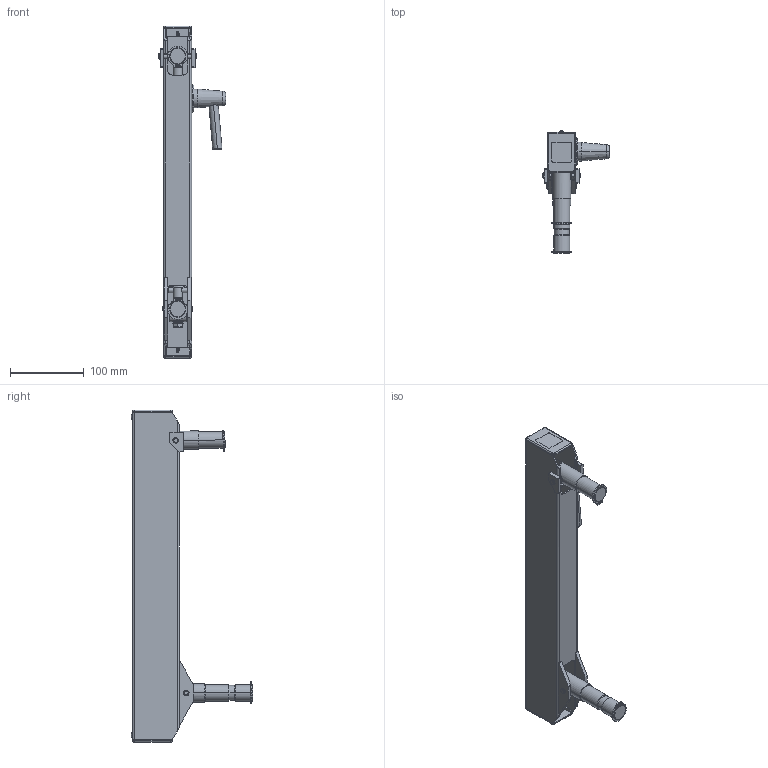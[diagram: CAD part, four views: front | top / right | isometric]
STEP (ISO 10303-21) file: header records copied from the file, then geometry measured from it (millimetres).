
FILE_DESCRIPTION (( 'STEP AP203' ), '1' );
FILE_NAME ('70-1343-00 REV AA, FLEX SECTION, 13.5in, 18-43 LB - HORIZONTAL.STEP', '2025-07-09T23:27:16', ( '' ), ( '' ), 'SwSTEP 2.0', 'SolidWorks 2025', '' );
FILE_SCHEMA (( 'CONFIG_CONTROL_DESIGN' ));
Length unit declared in the file: inch
Products named in the file (32): 002-041-00_002-041-00; 011-033-00; 004-050-00, WASHER, FIBER, .032 THK, .265ID; 005-084-00, BOLT, 1''4-20x2.75; 71-0028-RX REV AA, TAB, MOUNT_MACHINE; 013-036-00, SPRING, GREEN, 1x8_ISO425203; 71-1300-RX REV AA, HOUSING, 13.5in FLEX; 11-0602-RX REV AA, HANDLE, BRAKE ASSEMBLY; 71-0071-RX REV AA, AXLE PIN, LONG; 010-012-00, RETAINING RING, EXTERNAL, .875in SHAFT; 004-144-00; 71-0038-RX REV AA, PIVOT, KNUCKLE, ELECTROLESS NICKEL; 71-0070-RX REV AA, AXLE PIN, SHORT; 006-059-00; 71-0040-RX REV AA, BRAKE BLOCK, WIDE_MACHINE; 71-1301-BLKX REV AA, FLEX HOUSING, 13.5in, BLACK_Weld; 11-0650-00 REV AA, BRAKE HANDLE ASSEMBLY; 71-1032-RX REV AA, SPRING ROD, 13.5in FLEX; 71-0029-RX REV AA, TAB, LOAD; 71-0972-99 REV AA, END CAP, FLEX; 11-0601-99 REV AA, CONICAL KNOB, BRAKE ASSEMBLY; 71-0030-RX REV AA, KNUCKLE, LOAD_MACHINE; 71-1051-RX REV AA, SPRING BLOCK; 70-1343-00 REV AA, FLEX SECTION, 13.5in, 18-43 LB - HORIZONTAL; 010-011-00, RETAINING RING, EXT, .250 SHAFT_010-011-00; 011-020-00 REV AA, PIN, KNURLED, 1.0LG x .25OD; 71-0037-RX REV AA, PIVOT, THREADED; 016-070-00, BEARING, PLASTIC, .5ID x .625 OD x .75; 006-004-00_006-004-00; 71-1033-RX REV AA, BOLT, ADJUSTING, 10.9; 11-0027-RX REV AA, PLASTIC DISC, BRAKE ASSEMBLY_MACHINE; 71-0031-RX REV AA, KNUCKLE, MOUNT_MACHINE
Assembly tree (52 placements, depth 3):
  70-1343-00 REV AA, FLEX SECTION, 13.5in, 18-43 LB - HORIZONTAL
    71-0031-RX REV AA, KNUCKLE, MOUNT_MACHINE
    71-1032-RX REV AA, SPRING ROD, 13.5in FLEX
    71-0030-RX REV AA, KNUCKLE, LOAD_MACHINE
    71-0038-RX REV AA, PIVOT, KNUCKLE, ELECTROLESS NICKEL
    71-1033-RX REV AA, BOLT, ADJUSTING, 10.9
    71-0037-RX REV AA, PIVOT, THREADED
    71-0040-RX REV AA, BRAKE BLOCK, WIDE_MACHINE
    71-1051-RX REV AA, SPRING BLOCK
    71-1301-BLKX REV AA, FLEX HOUSING, 13.5in, BLACK_Weld
      71-1300-RX REV AA, HOUSING, 13.5in FLEX
      71-0029-RX REV AA, TAB, LOAD  x2
      71-0028-RX REV AA, TAB, MOUNT_MACHINE  x2
    71-0070-RX REV AA, AXLE PIN, SHORT
    71-0071-RX REV AA, AXLE PIN, LONG
    71-0972-99 REV AA, END CAP, FLEX  x2
    11-0027-RX REV AA, PLASTIC DISC, BRAKE ASSEMBLY_MACHINE
    11-0650-00 REV AA, BRAKE HANDLE ASSEMBLY
      11-0601-99 REV AA, CONICAL KNOB, BRAKE ASSEMBLY
      11-0602-RX REV AA, HANDLE, BRAKE ASSEMBLY
      11-0027-RX REV AA, PLASTIC DISC, BRAKE ASSEMBLY_MACHINE
      005-084-00, BOLT, 1''4-20x2.75
    006-004-00_006-004-00  x2
    002-041-00_002-041-00  x2
    010-012-00, RETAINING RING, EXTERNAL, .875in SHAFT  x2
    010-011-00, RETAINING RING, EXT, .250 SHAFT_010-011-00  x4
    011-033-00
    004-050-00, WASHER, FIBER, .032 THK, .265ID  x8
    011-020-00 REV AA, PIN, KNURLED, 1.0LG x .25OD  x2
    004-144-00  x3
    006-059-00
    013-036-00, SPRING, GREEN, 1x8_ISO425203
    016-070-00, BEARING, PLASTIC, .5ID x .625 OD x .75  x2
Bounding box: 91.63 x 165.23 x 450.6 mm (x, y, z)
Volume: 476653.1 mm3; surface area: 308090.8 mm2
Topology: 52 solids, 52 shells, 1069 faces, 2616 edges, 1646 vertices
Faces by surface type: cylinder 447, plane 371, cone 176, torus 45, bspline 24, sphere 6
Entity records: 61171 total; most frequent: CARTESIAN_POINT 39929, ORIENTED_EDGE 3626, DIRECTION 3592, EDGE_CURVE 1813, AXIS2_PLACEMENT_3D 1370, VERTEX_POINT 1140, LINE 852, VECTOR 852
